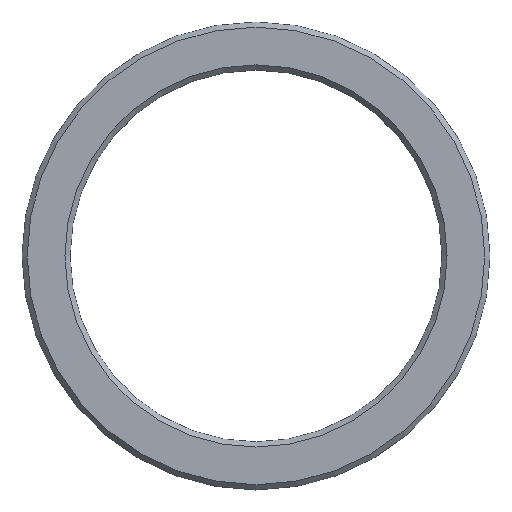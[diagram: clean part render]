
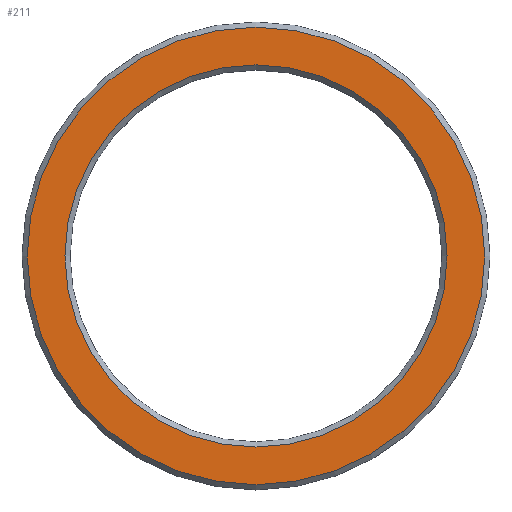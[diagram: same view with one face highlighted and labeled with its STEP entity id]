
A CAD part, top view. The second image highlights one B-rep face of the part: STEP entity #211.
In plain terms, the highlighted planar face has unit normal (0, 0, 1).
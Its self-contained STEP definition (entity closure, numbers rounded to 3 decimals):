
#84 = CONICAL_SURFACE('',#85,18.,0.785);
#85 = AXIS2_PLACEMENT_3D('',#86,#87,#88);
#86 = CARTESIAN_POINT('',(-95.,0.,1.95));
#87 = DIRECTION('',(-0.,-0.,-1.));
#88 = DIRECTION('',(1.,0.,0.));
#128 = VERTEX_POINT('',#129);
#129 = CARTESIAN_POINT('',(-77.4,0.,2.35));
#150 = EDGE_CURVE('',#128,#128,#151,.T.);
#151 = SURFACE_CURVE('',#152,(#157,#164),.PCURVE_S1.);
#152 = CIRCLE('',#153,17.6);
#153 = AXIS2_PLACEMENT_3D('',#154,#155,#156);
#154 = CARTESIAN_POINT('',(-95.,0.,2.35));
#155 = DIRECTION('',(0.,0.,1.));
#156 = DIRECTION('',(1.,0.,-0.));
#157 = PCURVE('',#84,#158);
#158 = DEFINITIONAL_REPRESENTATION('',(#159),#163);
#159 = LINE('',#160,#161);
#160 = CARTESIAN_POINT('',(-0.,-0.4));
#161 = VECTOR('',#162,1.);
#162 = DIRECTION('',(-1.,-0.));
#163 = ( GEOMETRIC_REPRESENTATION_CONTEXT(2) 
PARAMETRIC_REPRESENTATION_CONTEXT() REPRESENTATION_CONTEXT('2D SPACE',''
  ) );
#164 = PCURVE('',#165,#170);
#165 = PLANE('',#166);
#166 = AXIS2_PLACEMENT_3D('',#167,#168,#169);
#167 = CARTESIAN_POINT('',(-95.,0.,2.35));
#168 = DIRECTION('',(0.,0.,1.));
#169 = DIRECTION('',(1.,0.,-0.));
#170 = DEFINITIONAL_REPRESENTATION('',(#171),#175);
#171 = CIRCLE('',#172,17.6);
#172 = AXIS2_PLACEMENT_2D('',#173,#174);
#173 = CARTESIAN_POINT('',(0.,0.));
#174 = DIRECTION('',(1.,0.));
#175 = ( GEOMETRIC_REPRESENTATION_CONTEXT(2) 
PARAMETRIC_REPRESENTATION_CONTEXT() REPRESENTATION_CONTEXT('2D SPACE',''
  ) );
#211 = ADVANCED_FACE('',(#212,#215),#165,.T.);
#212 = FACE_BOUND('',#213,.T.);
#213 = EDGE_LOOP('',(#214));
#214 = ORIENTED_EDGE('',*,*,#150,.T.);
#215 = FACE_BOUND('',#216,.T.);
#216 = EDGE_LOOP('',(#217));
#217 = ORIENTED_EDGE('',*,*,#218,.F.);
#218 = EDGE_CURVE('',#219,#219,#221,.T.);
#219 = VERTEX_POINT('',#220);
#220 = CARTESIAN_POINT('',(-80.3,0.,2.35));
#221 = SURFACE_CURVE('',#222,(#227,#234),.PCURVE_S1.);
#222 = CIRCLE('',#223,14.7);
#223 = AXIS2_PLACEMENT_3D('',#224,#225,#226);
#224 = CARTESIAN_POINT('',(-95.,0.,2.35));
#225 = DIRECTION('',(0.,0.,1.));
#226 = DIRECTION('',(1.,0.,-0.));
#227 = PCURVE('',#165,#228);
#228 = DEFINITIONAL_REPRESENTATION('',(#229),#233);
#229 = CIRCLE('',#230,14.7);
#230 = AXIS2_PLACEMENT_2D('',#231,#232);
#231 = CARTESIAN_POINT('',(0.,0.));
#232 = DIRECTION('',(1.,0.));
#233 = ( GEOMETRIC_REPRESENTATION_CONTEXT(2) 
PARAMETRIC_REPRESENTATION_CONTEXT() REPRESENTATION_CONTEXT('2D SPACE',''
  ) );
#234 = PCURVE('',#235,#240);
#235 = CONICAL_SURFACE('',#236,14.3,0.785);
#236 = AXIS2_PLACEMENT_3D('',#237,#238,#239);
#237 = CARTESIAN_POINT('',(-95.,0.,1.95));
#238 = DIRECTION('',(0.,0.,1.));
#239 = DIRECTION('',(1.,0.,-0.));
#240 = DEFINITIONAL_REPRESENTATION('',(#241),#245);
#241 = LINE('',#242,#243);
#242 = CARTESIAN_POINT('',(-0.,0.4));
#243 = VECTOR('',#244,1.);
#244 = DIRECTION('',(1.,-0.));
#245 = ( GEOMETRIC_REPRESENTATION_CONTEXT(2) 
PARAMETRIC_REPRESENTATION_CONTEXT() REPRESENTATION_CONTEXT('2D SPACE',''
  ) );
